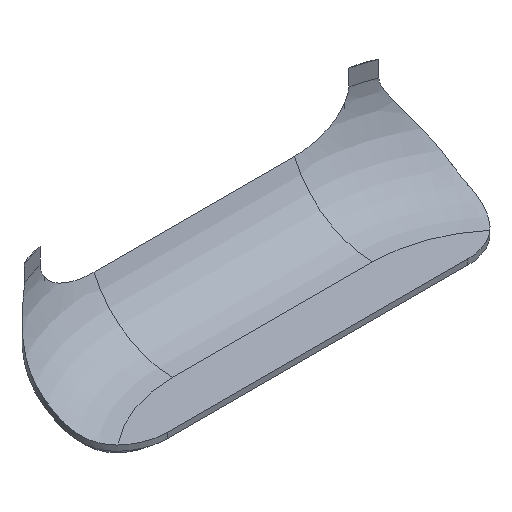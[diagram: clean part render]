
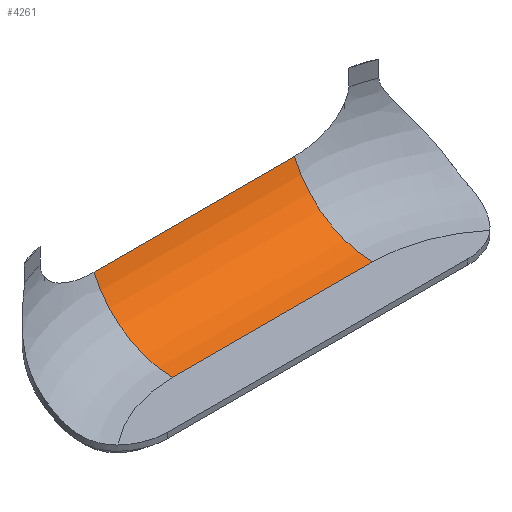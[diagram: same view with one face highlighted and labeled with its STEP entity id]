
A CAD part, isometric view. The second image highlights one B-rep face of the part: STEP entity #4261.
In plain terms, the highlighted cylindrical face has radius 10.2 mm (diameter 20.4 mm), a partial arc.
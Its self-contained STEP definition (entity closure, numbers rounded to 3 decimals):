
#2057 = PLANE('',#2058);
#2058 = AXIS2_PLACEMENT_3D('',#2059,#2060,#2061);
#2059 = CARTESIAN_POINT('',(-24.4,61.4,-2.));
#2060 = DIRECTION('',(0.,1.,0.));
#2061 = DIRECTION('',(0.,-0.,1.));
#2938 = VERTEX_POINT('',#2939);
#2939 = CARTESIAN_POINT('',(-12.,61.4,8.04));
#3011 = TOROIDAL_SURFACE('',#3012,16.,10.2);
#3012 = AXIS2_PLACEMENT_3D('',#3013,#3014,#3015);
#3013 = CARTESIAN_POINT('',(-12.,36.,12.));
#3014 = DIRECTION('',(-0.,-0.,-1.));
#3015 = DIRECTION('',(0.,1.,0.));
#3052 = EDGE_CURVE('',#3053,#2938,#3055,.T.);
#3053 = VERTEX_POINT('',#3054);
#3054 = CARTESIAN_POINT('',(12.,61.4,8.04));
#3055 = SURFACE_CURVE('',#3056,(#3060,#3067),.PCURVE_S1.);
#3056 = LINE('',#3057,#3058);
#3057 = CARTESIAN_POINT('',(12.,61.4,8.04));
#3058 = VECTOR('',#3059,1.);
#3059 = DIRECTION('',(-1.,-0.,-0.));
#3060 = PCURVE('',#2057,#3061);
#3061 = DEFINITIONAL_REPRESENTATION('',(#3062),#3066);
#3062 = LINE('',#3063,#3064);
#3063 = CARTESIAN_POINT('',(10.04,36.4));
#3064 = VECTOR('',#3065,1.);
#3065 = DIRECTION('',(0.,-1.));
#3066 = ( GEOMETRIC_REPRESENTATION_CONTEXT(2) 
PARAMETRIC_REPRESENTATION_CONTEXT() REPRESENTATION_CONTEXT('2D SPACE',''
  ) );
#3067 = PCURVE('',#3068,#3073);
#3068 = CYLINDRICAL_SURFACE('',#3069,10.2);
#3069 = AXIS2_PLACEMENT_3D('',#3070,#3071,#3072);
#3070 = CARTESIAN_POINT('',(12.,52.,12.));
#3071 = DIRECTION('',(-1.,-0.,-0.));
#3072 = DIRECTION('',(0.,1.,0.));
#3073 = DEFINITIONAL_REPRESENTATION('',(#3074),#3077);
#3074 = B_SPLINE_CURVE_WITH_KNOTS('',1,(#3075,#3076),.UNSPECIFIED.,.F.,
  .F.,(2,2),(0.,24.),.PIECEWISE_BEZIER_KNOTS.);
#3075 = CARTESIAN_POINT('',(0.399,0.));
#3076 = CARTESIAN_POINT('',(0.399,24.));
#3077 = ( GEOMETRIC_REPRESENTATION_CONTEXT(2) 
PARAMETRIC_REPRESENTATION_CONTEXT() REPRESENTATION_CONTEXT('2D SPACE',''
  ) );
#3153 = TOROIDAL_SURFACE('',#3154,16.,10.2);
#3154 = AXIS2_PLACEMENT_3D('',#3155,#3156,#3157);
#3155 = CARTESIAN_POINT('',(12.,36.,12.));
#3156 = DIRECTION('',(-0.,-0.,-1.));
#3157 = DIRECTION('',(1.,0.,-0.));
#3643 = PLANE('',#3644);
#3644 = AXIS2_PLACEMENT_3D('',#3645,#3646,#3647);
#3645 = CARTESIAN_POINT('',(-38.2,-62.2,1.8));
#3646 = DIRECTION('',(0.,0.,1.));
#3647 = DIRECTION('',(1.,0.,-0.));
#4188 = VERTEX_POINT('',#4189);
#4189 = CARTESIAN_POINT('',(12.,52.,1.8));
#4215 = EDGE_CURVE('',#3053,#4188,#4216,.T.);
#4216 = SURFACE_CURVE('',#4217,(#4222,#4229),.PCURVE_S1.);
#4217 = CIRCLE('',#4218,10.2);
#4218 = AXIS2_PLACEMENT_3D('',#4219,#4220,#4221);
#4219 = CARTESIAN_POINT('',(12.,52.,12.));
#4220 = DIRECTION('',(-1.,0.,0.));
#4221 = DIRECTION('',(0.,0.922,-0.388)
  );
#4222 = PCURVE('',#3153,#4223);
#4223 = DEFINITIONAL_REPRESENTATION('',(#4224),#4228);
#4224 = LINE('',#4225,#4226);
#4225 = CARTESIAN_POINT('',(4.712,0.399));
#4226 = VECTOR('',#4227,1.);
#4227 = DIRECTION('',(-0.,1.));
#4228 = ( GEOMETRIC_REPRESENTATION_CONTEXT(2) 
PARAMETRIC_REPRESENTATION_CONTEXT() REPRESENTATION_CONTEXT('2D SPACE',''
  ) );
#4229 = PCURVE('',#3068,#4230);
#4230 = DEFINITIONAL_REPRESENTATION('',(#4231),#4235);
#4231 = LINE('',#4232,#4233);
#4232 = CARTESIAN_POINT('',(0.399,0.));
#4233 = VECTOR('',#4234,1.);
#4234 = DIRECTION('',(1.,0.));
#4235 = ( GEOMETRIC_REPRESENTATION_CONTEXT(2) 
PARAMETRIC_REPRESENTATION_CONTEXT() REPRESENTATION_CONTEXT('2D SPACE',''
  ) );
#4261 = ADVANCED_FACE('',(#4262),#3068,.F.);
#4262 = FACE_BOUND('',#4263,.F.);
#4263 = EDGE_LOOP('',(#4264,#4265,#4266,#4289));
#4264 = ORIENTED_EDGE('',*,*,#3052,.F.);
#4265 = ORIENTED_EDGE('',*,*,#4215,.T.);
#4266 = ORIENTED_EDGE('',*,*,#4267,.T.);
#4267 = EDGE_CURVE('',#4188,#4268,#4270,.T.);
#4268 = VERTEX_POINT('',#4269);
#4269 = CARTESIAN_POINT('',(-12.,52.,1.8));
#4270 = SURFACE_CURVE('',#4271,(#4275,#4282),.PCURVE_S1.);
#4271 = LINE('',#4272,#4273);
#4272 = CARTESIAN_POINT('',(12.,52.,1.8));
#4273 = VECTOR('',#4274,1.);
#4274 = DIRECTION('',(-1.,-0.,-0.));
#4275 = PCURVE('',#3068,#4276);
#4276 = DEFINITIONAL_REPRESENTATION('',(#4277),#4281);
#4277 = LINE('',#4278,#4279);
#4278 = CARTESIAN_POINT('',(1.571,0.));
#4279 = VECTOR('',#4280,1.);
#4280 = DIRECTION('',(0.,1.));
#4281 = ( GEOMETRIC_REPRESENTATION_CONTEXT(2) 
PARAMETRIC_REPRESENTATION_CONTEXT() REPRESENTATION_CONTEXT('2D SPACE',''
  ) );
#4282 = PCURVE('',#3643,#4283);
#4283 = DEFINITIONAL_REPRESENTATION('',(#4284),#4288);
#4284 = LINE('',#4285,#4286);
#4285 = CARTESIAN_POINT('',(50.2,114.2));
#4286 = VECTOR('',#4287,1.);
#4287 = DIRECTION('',(-1.,0.));
#4288 = ( GEOMETRIC_REPRESENTATION_CONTEXT(2) 
PARAMETRIC_REPRESENTATION_CONTEXT() REPRESENTATION_CONTEXT('2D SPACE',''
  ) );
#4289 = ORIENTED_EDGE('',*,*,#4290,.F.);
#4290 = EDGE_CURVE('',#2938,#4268,#4291,.T.);
#4291 = SURFACE_CURVE('',#4292,(#4297,#4304),.PCURVE_S1.);
#4292 = CIRCLE('',#4293,10.2);
#4293 = AXIS2_PLACEMENT_3D('',#4294,#4295,#4296);
#4294 = CARTESIAN_POINT('',(-12.,52.,12.));
#4295 = DIRECTION('',(-1.,0.,0.));
#4296 = DIRECTION('',(0.,0.922,-0.388));
#4297 = PCURVE('',#3068,#4298);
#4298 = DEFINITIONAL_REPRESENTATION('',(#4299),#4303);
#4299 = LINE('',#4300,#4301);
#4300 = CARTESIAN_POINT('',(0.399,24.));
#4301 = VECTOR('',#4302,1.);
#4302 = DIRECTION('',(1.,0.));
#4303 = ( GEOMETRIC_REPRESENTATION_CONTEXT(2) 
PARAMETRIC_REPRESENTATION_CONTEXT() REPRESENTATION_CONTEXT('2D SPACE',''
  ) );
#4304 = PCURVE('',#3011,#4305);
#4305 = DEFINITIONAL_REPRESENTATION('',(#4306),#4310);
#4306 = LINE('',#4307,#4308);
#4307 = CARTESIAN_POINT('',(6.283,0.399));
#4308 = VECTOR('',#4309,1.);
#4309 = DIRECTION('',(-0.,1.));
#4310 = ( GEOMETRIC_REPRESENTATION_CONTEXT(2) 
PARAMETRIC_REPRESENTATION_CONTEXT() REPRESENTATION_CONTEXT('2D SPACE',''
  ) );
